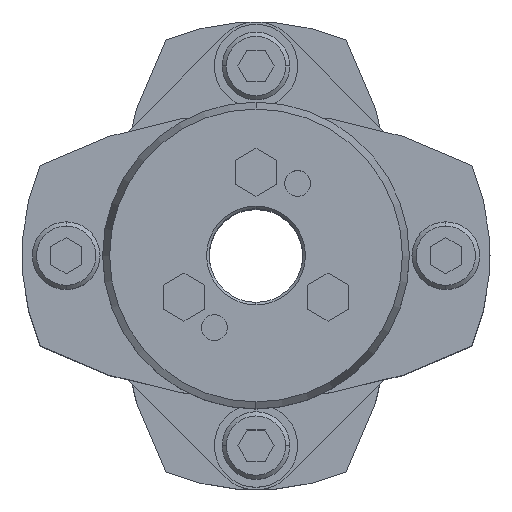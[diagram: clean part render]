
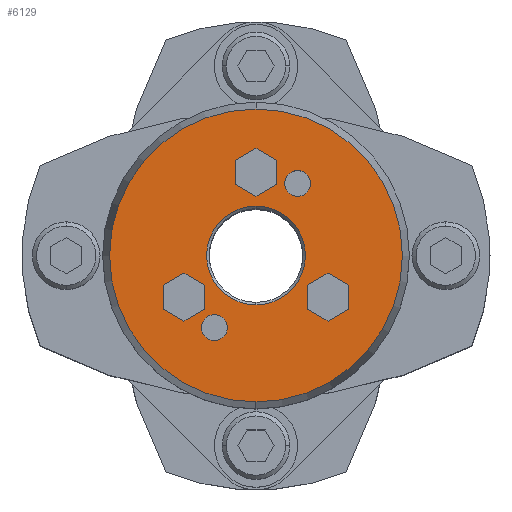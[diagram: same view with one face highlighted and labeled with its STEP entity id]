
A CAD part, top view. The second image highlights one B-rep face of the part: STEP entity #6129.
In plain terms, the highlighted planar face has unit normal (0, 0, 1).
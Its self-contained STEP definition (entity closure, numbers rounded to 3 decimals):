
#1677=CARTESIAN_POINT('',(0.,9.5,52.0));
#1678=VERTEX_POINT('',#1677);
#1694=CARTESIAN_POINT('',(0.,-9.5,52.0));
#1695=VERTEX_POINT('',#1694);
#1702=CARTESIAN_POINT('',(0.,0.,52.0));
#1703=DIRECTION('',(0.0,0.0,1.0));
#1704=DIRECTION('',(0.0,1.0,0.0));
#1705=AXIS2_PLACEMENT_3D('',#1702,#1703,#1704);
#1706=CIRCLE('',#1705,9.5);
#1707=EDGE_CURVE('',#1695,#1678,#1706,.T.);
#1865=CARTESIAN_POINT('',(0.,-28.16,52.0));
#1866=VERTEX_POINT('',#1865);
#1873=CARTESIAN_POINT('',(0.,28.16,52.0));
#1874=VERTEX_POINT('',#1873);
#1875=CARTESIAN_POINT('',(0.,0.,52.0));
#1876=DIRECTION('',(0.0,0.0,-1.0));
#1877=DIRECTION('',(0.0,-1.0,0.0));
#1878=AXIS2_PLACEMENT_3D('',#1875,#1876,#1877);
#1879=CIRCLE('',#1878,28.16);
#1880=EDGE_CURVE('',#1866,#1874,#1879,.T.);
#2123=CARTESIAN_POINT('',(8.,16.356,52.0));
#2124=VERTEX_POINT('',#2123);
#2140=CARTESIAN_POINT('',(8.,11.356,52.0));
#2141=VERTEX_POINT('',#2140);
#2148=CARTESIAN_POINT('',(8.,13.856,52.0));
#2149=DIRECTION('',(0.0,0.0,-1.0));
#2150=DIRECTION('',(0.0,1.0,0.0));
#2151=AXIS2_PLACEMENT_3D('',#2148,#2149,#2150);
#2152=CIRCLE('',#2151,2.5);
#2153=EDGE_CURVE('',#2124,#2141,#2152,.T.);
#2165=CARTESIAN_POINT('',(-8.,-11.356,52.0));
#2166=VERTEX_POINT('',#2165);
#2182=CARTESIAN_POINT('',(-8.,-16.356,52.0));
#2183=VERTEX_POINT('',#2182);
#2190=CARTESIAN_POINT('',(-8.,-13.856,52.0));
#2191=DIRECTION('',(0.0,0.0,-1.0));
#2192=DIRECTION('',(0.0,1.0,0.0));
#2193=AXIS2_PLACEMENT_3D('',#2190,#2191,#2192);
#2194=CIRCLE('',#2193,2.5);
#2195=EDGE_CURVE('',#2166,#2183,#2194,.T.);
#4645=CARTESIAN_POINT('',(13.856,-3.381,52.0));
#4646=VERTEX_POINT('',#4645);
#4653=CARTESIAN_POINT('',(9.856,-5.691,52.0));
#4654=VERTEX_POINT('',#4653);
#4655=CARTESIAN_POINT('',(9.856,-5.691,52.0));
#4656=DIRECTION('',(0.866,0.5,0.0));
#4657=VECTOR('',#4656,4.619);
#4658=LINE('',#4655,#4657);
#4659=EDGE_CURVE('',#4654,#4646,#4658,.T.);
#4683=CARTESIAN_POINT('',(17.856,-5.691,52.0));
#4684=VERTEX_POINT('',#4683);
#4691=CARTESIAN_POINT('',(13.856,-3.381,52.0));
#4692=DIRECTION('',(0.866,-0.5,0.0));
#4693=VECTOR('',#4692,4.619);
#4694=LINE('',#4691,#4693);
#4695=EDGE_CURVE('',#4646,#4684,#4694,.T.);
#4714=CARTESIAN_POINT('',(17.856,-10.309,52.0));
#4715=VERTEX_POINT('',#4714);
#4722=CARTESIAN_POINT('',(17.856,-5.691,52.0));
#4723=DIRECTION('',(0.0,-1.0,0.0));
#4724=VECTOR('',#4723,4.619);
#4725=LINE('',#4722,#4724);
#4726=EDGE_CURVE('',#4684,#4715,#4725,.T.);
#4745=CARTESIAN_POINT('',(13.856,-12.619,52.0));
#4746=VERTEX_POINT('',#4745);
#4753=CARTESIAN_POINT('',(17.856,-10.309,52.0));
#4754=DIRECTION('',(-0.866,-0.5,0.0));
#4755=VECTOR('',#4754,4.619);
#4756=LINE('',#4753,#4755);
#4757=EDGE_CURVE('',#4715,#4746,#4756,.T.);
#4776=CARTESIAN_POINT('',(9.856,-10.309,52.0));
#4777=VERTEX_POINT('',#4776);
#4784=CARTESIAN_POINT('',(13.856,-12.619,52.0));
#4785=DIRECTION('',(-0.866,0.5,0.0));
#4786=VECTOR('',#4785,4.619);
#4787=LINE('',#4784,#4786);
#4788=EDGE_CURVE('',#4746,#4777,#4787,.T.);
#4806=CARTESIAN_POINT('',(9.856,-10.309,52.0));
#4807=DIRECTION('',(0.0,1.0,0.0));
#4808=VECTOR('',#4807,4.619);
#4809=LINE('',#4806,#4808);
#4810=EDGE_CURVE('',#4777,#4654,#4809,.T.);
#4845=CARTESIAN_POINT('',(0.,20.619,52.0));
#4846=VERTEX_POINT('',#4845);
#4853=CARTESIAN_POINT('',(-4.,18.309,52.0));
#4854=VERTEX_POINT('',#4853);
#4855=CARTESIAN_POINT('',(-4.,18.309,52.0));
#4856=DIRECTION('',(0.866,0.5,0.0));
#4857=VECTOR('',#4856,4.619);
#4858=LINE('',#4855,#4857);
#4859=EDGE_CURVE('',#4854,#4846,#4858,.T.);
#4883=CARTESIAN_POINT('',(4.,18.309,52.0));
#4884=VERTEX_POINT('',#4883);
#4891=CARTESIAN_POINT('',(0.,20.619,52.0));
#4892=DIRECTION('',(0.866,-0.5,0.0));
#4893=VECTOR('',#4892,4.619);
#4894=LINE('',#4891,#4893);
#4895=EDGE_CURVE('',#4846,#4884,#4894,.T.);
#4914=CARTESIAN_POINT('',(4.,13.691,52.0));
#4915=VERTEX_POINT('',#4914);
#4922=CARTESIAN_POINT('',(4.,18.309,52.0));
#4923=DIRECTION('',(0.0,-1.0,0.0));
#4924=VECTOR('',#4923,4.619);
#4925=LINE('',#4922,#4924);
#4926=EDGE_CURVE('',#4884,#4915,#4925,.T.);
#4945=CARTESIAN_POINT('',(0.,11.381,52.0));
#4946=VERTEX_POINT('',#4945);
#4953=CARTESIAN_POINT('',(4.,13.691,52.0));
#4954=DIRECTION('',(-0.866,-0.5,0.0));
#4955=VECTOR('',#4954,4.619);
#4956=LINE('',#4953,#4955);
#4957=EDGE_CURVE('',#4915,#4946,#4956,.T.);
#4976=CARTESIAN_POINT('',(-4.,13.691,52.0));
#4977=VERTEX_POINT('',#4976);
#4984=CARTESIAN_POINT('',(0.,11.381,52.0));
#4985=DIRECTION('',(-0.866,0.5,0.0));
#4986=VECTOR('',#4985,4.619);
#4987=LINE('',#4984,#4986);
#4988=EDGE_CURVE('',#4946,#4977,#4987,.T.);
#5006=CARTESIAN_POINT('',(-4.,13.691,52.0));
#5007=DIRECTION('',(0.0,1.0,0.0));
#5008=VECTOR('',#5007,4.619);
#5009=LINE('',#5006,#5008);
#5010=EDGE_CURVE('',#4977,#4854,#5009,.T.);
#5045=CARTESIAN_POINT('',(-13.856,-3.381,52.0));
#5046=VERTEX_POINT('',#5045);
#5053=CARTESIAN_POINT('',(-17.856,-5.691,52.0));
#5054=VERTEX_POINT('',#5053);
#5055=CARTESIAN_POINT('',(-17.856,-5.691,52.0));
#5056=DIRECTION('',(0.866,0.5,0.0));
#5057=VECTOR('',#5056,4.619);
#5058=LINE('',#5055,#5057);
#5059=EDGE_CURVE('',#5054,#5046,#5058,.T.);
#5083=CARTESIAN_POINT('',(-9.856,-5.691,52.0));
#5084=VERTEX_POINT('',#5083);
#5091=CARTESIAN_POINT('',(-13.856,-3.381,52.0));
#5092=DIRECTION('',(0.866,-0.5,0.0));
#5093=VECTOR('',#5092,4.619);
#5094=LINE('',#5091,#5093);
#5095=EDGE_CURVE('',#5046,#5084,#5094,.T.);
#5114=CARTESIAN_POINT('',(-9.856,-10.309,52.0));
#5115=VERTEX_POINT('',#5114);
#5122=CARTESIAN_POINT('',(-9.856,-5.691,52.0));
#5123=DIRECTION('',(0.0,-1.0,0.0));
#5124=VECTOR('',#5123,4.619);
#5125=LINE('',#5122,#5124);
#5126=EDGE_CURVE('',#5084,#5115,#5125,.T.);
#5145=CARTESIAN_POINT('',(-13.856,-12.619,52.0));
#5146=VERTEX_POINT('',#5145);
#5153=CARTESIAN_POINT('',(-9.856,-10.309,52.0));
#5154=DIRECTION('',(-0.866,-0.5,0.0));
#5155=VECTOR('',#5154,4.619);
#5156=LINE('',#5153,#5155);
#5157=EDGE_CURVE('',#5115,#5146,#5156,.T.);
#5176=CARTESIAN_POINT('',(-17.856,-10.309,52.0));
#5177=VERTEX_POINT('',#5176);
#5184=CARTESIAN_POINT('',(-13.856,-12.619,52.0));
#5185=DIRECTION('',(-0.866,0.5,0.0));
#5186=VECTOR('',#5185,4.619);
#5187=LINE('',#5184,#5186);
#5188=EDGE_CURVE('',#5146,#5177,#5187,.T.);
#5206=CARTESIAN_POINT('',(-17.856,-10.309,52.0));
#5207=DIRECTION('',(0.0,1.0,0.0));
#5208=VECTOR('',#5207,4.619);
#5209=LINE('',#5206,#5208);
#5210=EDGE_CURVE('',#5177,#5054,#5209,.T.);
#5236=CARTESIAN_POINT('',(-8.,-13.856,52.0));
#5237=DIRECTION('',(0.0,0.0,-1.0));
#5238=DIRECTION('',(0.0,1.0,0.0));
#5239=AXIS2_PLACEMENT_3D('',#5236,#5237,#5238);
#5240=CIRCLE('',#5239,2.5);
#5241=EDGE_CURVE('',#2183,#2166,#5240,.T.);
#5270=CARTESIAN_POINT('',(8.,13.856,52.0));
#5271=DIRECTION('',(0.0,0.0,-1.0));
#5272=DIRECTION('',(0.0,1.0,0.0));
#5273=AXIS2_PLACEMENT_3D('',#5270,#5271,#5272);
#5274=CIRCLE('',#5273,2.5);
#5275=EDGE_CURVE('',#2141,#2124,#5274,.T.);
#6068=CARTESIAN_POINT('',(0.,0.,52.0));
#6069=DIRECTION('',(0.0,0.0,-1.0));
#6070=DIRECTION('',(0.0,-1.0,0.0));
#6071=AXIS2_PLACEMENT_3D('',#6068,#6069,#6070);
#6072=CIRCLE('',#6071,28.16);
#6073=EDGE_CURVE('',#1874,#1866,#6072,.T.);
#6078=CARTESIAN_POINT('',(0.,2.682,52.0));
#6079=DIRECTION('',(0.0,0.0,1.0));
#6080=DIRECTION('',(0.0,1.0,0.0));
#6081=AXIS2_PLACEMENT_3D('',#6078,#6079,#6080);
#6082=PLANE('',#6081);
#6083=ORIENTED_EDGE('',*,*,#6073,.F.);
#6084=ORIENTED_EDGE('',*,*,#1880,.F.);
#6085=EDGE_LOOP('',(#6083,#6084));
#6086=FACE_OUTER_BOUND('',#6085,.T.);
#6087=ORIENTED_EDGE('',*,*,#4659,.T.);
#6088=ORIENTED_EDGE('',*,*,#4695,.T.);
#6089=ORIENTED_EDGE('',*,*,#4726,.T.);
#6090=ORIENTED_EDGE('',*,*,#4757,.T.);
#6091=ORIENTED_EDGE('',*,*,#4788,.T.);
#6092=ORIENTED_EDGE('',*,*,#4810,.T.);
#6093=EDGE_LOOP('',(#6087,#6088,#6089,#6090,#6091,#6092));
#6094=FACE_BOUND('',#6093,.T.);
#6095=ORIENTED_EDGE('',*,*,#4859,.T.);
#6096=ORIENTED_EDGE('',*,*,#4895,.T.);
#6097=ORIENTED_EDGE('',*,*,#4926,.T.);
#6098=ORIENTED_EDGE('',*,*,#4957,.T.);
#6099=ORIENTED_EDGE('',*,*,#4988,.T.);
#6100=ORIENTED_EDGE('',*,*,#5010,.T.);
#6101=EDGE_LOOP('',(#6095,#6096,#6097,#6098,#6099,#6100));
#6102=FACE_BOUND('',#6101,.T.);
#6103=ORIENTED_EDGE('',*,*,#5059,.T.);
#6104=ORIENTED_EDGE('',*,*,#5095,.T.);
#6105=ORIENTED_EDGE('',*,*,#5126,.T.);
#6106=ORIENTED_EDGE('',*,*,#5157,.T.);
#6107=ORIENTED_EDGE('',*,*,#5188,.T.);
#6108=ORIENTED_EDGE('',*,*,#5210,.T.);
#6109=EDGE_LOOP('',(#6103,#6104,#6105,#6106,#6107,#6108));
#6110=FACE_BOUND('',#6109,.T.);
#6111=ORIENTED_EDGE('',*,*,#2195,.T.);
#6112=ORIENTED_EDGE('',*,*,#5241,.T.);
#6113=EDGE_LOOP('',(#6111,#6112));
#6114=FACE_BOUND('',#6113,.T.);
#6115=ORIENTED_EDGE('',*,*,#2153,.T.);
#6116=ORIENTED_EDGE('',*,*,#5275,.T.);
#6117=EDGE_LOOP('',(#6115,#6116));
#6118=FACE_BOUND('',#6117,.T.);
#6119=ORIENTED_EDGE('',*,*,#1707,.F.);
#6120=CARTESIAN_POINT('',(0.,0.,52.0));
#6121=DIRECTION('',(0.0,0.0,1.0));
#6122=DIRECTION('',(0.0,1.0,0.0));
#6123=AXIS2_PLACEMENT_3D('',#6120,#6121,#6122);
#6124=CIRCLE('',#6123,9.5);
#6125=EDGE_CURVE('',#1678,#1695,#6124,.T.);
#6126=ORIENTED_EDGE('',*,*,#6125,.F.);
#6127=EDGE_LOOP('',(#6119,#6126));
#6128=FACE_BOUND('',#6127,.T.);
#6129=ADVANCED_FACE('',(#6086,#6094,#6102,#6110,#6114,#6118,#6128),#6082,.T.);
